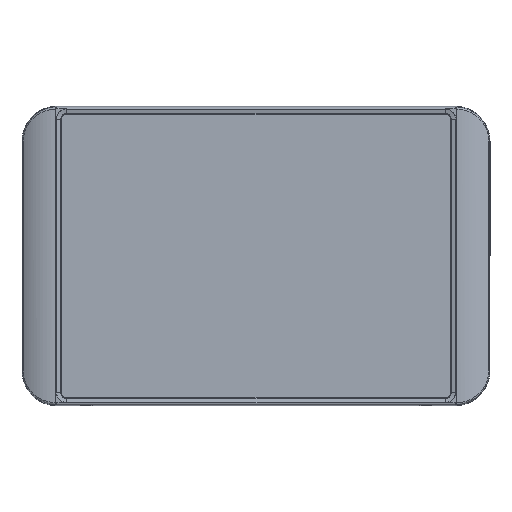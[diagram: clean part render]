
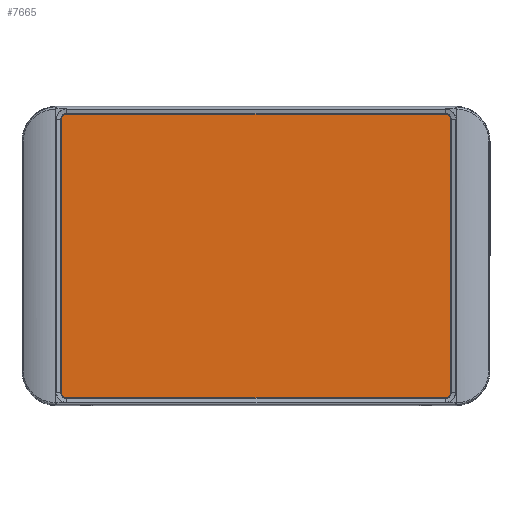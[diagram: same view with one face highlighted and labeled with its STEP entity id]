
A CAD part, top view. The second image highlights one B-rep face of the part: STEP entity #7665.
In plain terms, the highlighted planar face has unit normal (0, 0, 1).
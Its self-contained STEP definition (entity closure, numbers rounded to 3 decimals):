
#3389 = CARTESIAN_POINT ( 'NONE',  ( -66.95, 47., 6.7 ) ) ;
#5223 = VERTEX_POINT ( 'NONE', #70194 ) ;
#5329 = ORIENTED_EDGE ( 'NONE', *, *, #25039, .T. ) ;
#7665 = ADVANCED_FACE ( 'NONE', ( #53057 ), #104789, .T. ) ;
#9580 = CIRCLE ( 'NONE', #89267, 1.8 ) ;
#10596 = CARTESIAN_POINT ( 'NONE',  ( -65.15, 47., 6.7 ) ) ;
#10957 = VERTEX_POINT ( 'NONE', #63657 ) ;
#12002 = VERTEX_POINT ( 'NONE', #14768 ) ;
#14768 = CARTESIAN_POINT ( 'NONE',  ( -65.15, -48.8, 6.7 ) ) ;
#16597 = LINE ( 'NONE', #105528, #101833 ) ;
#18871 = DIRECTION ( 'NONE',  ( 1., 0., 0. ) ) ;
#19918 = LINE ( 'NONE', #62959, #39330 ) ;
#21638 = ORIENTED_EDGE ( 'NONE', *, *, #51643, .T. ) ;
#21799 = DIRECTION ( 'NONE',  ( 0., -1., 0. ) ) ;
#24155 = VERTEX_POINT ( 'NONE', #3389 ) ;
#25039 = EDGE_CURVE ( 'NONE', #12002, #32439, #84920, .T. ) ;
#26351 = AXIS2_PLACEMENT_3D ( 'NONE', #10596, #68329, #18871 ) ;
#32439 = VERTEX_POINT ( 'NONE', #101100 ) ;
#33220 = CARTESIAN_POINT ( 'NONE',  ( 65.15, 48.8, 6.7 ) ) ;
#35600 = LINE ( 'NONE', #105513, #76905 ) ;
#36259 = DIRECTION ( 'NONE',  ( 0., 0., 1. ) ) ;
#39125 = EDGE_CURVE ( 'NONE', #53460, #103181, #35600, .T. ) ;
#39330 = VECTOR ( 'NONE', #21799, 1000. ) ;
#40913 = DIRECTION ( 'NONE',  ( 0., 0., 1. ) ) ;
#43648 = VECTOR ( 'NONE', #101554, 1000. ) ;
#43688 = ORIENTED_EDGE ( 'NONE', *, *, #52134, .T. ) ;
#49326 = DIRECTION ( 'NONE',  ( 0., 0., 1. ) ) ;
#50165 = EDGE_CURVE ( 'NONE', #10957, #12002, #62906, .T. ) ;
#51643 = EDGE_CURVE ( 'NONE', #5223, #53460, #92336, .T. ) ;
#52019 = EDGE_CURVE ( 'NONE', #24155, #10957, #19918, .T. ) ;
#52134 = EDGE_CURVE ( 'NONE', #32439, #74831, #9580, .T. ) ;
#53057 = FACE_OUTER_BOUND ( 'NONE', #78203, .T. ) ;
#53460 = VERTEX_POINT ( 'NONE', #33220 ) ;
#55364 = DIRECTION ( 'NONE',  ( 1., 0., 0. ) ) ;
#61971 = EDGE_CURVE ( 'NONE', #103181, #24155, #76337, .T. ) ;
#62906 = CIRCLE ( 'NONE', #70475, 1.8 ) ;
#62959 = CARTESIAN_POINT ( 'NONE',  ( -66.95, 47., 6.7 ) ) ;
#63494 = CARTESIAN_POINT ( 'NONE',  ( 66.95, -47., 6.7 ) ) ;
#63657 = CARTESIAN_POINT ( 'NONE',  ( -66.95, -47., 6.7 ) ) ;
#64417 = DIRECTION ( 'NONE',  ( -1., 0., 0. ) ) ;
#64436 = DIRECTION ( 'NONE',  ( 0., 1., 0. ) ) ;
#68329 = DIRECTION ( 'NONE',  ( 0., 0., 1. ) ) ;
#69103 = CARTESIAN_POINT ( 'NONE',  ( 65.15, -48.8, 6.7 ) ) ;
#70194 = CARTESIAN_POINT ( 'NONE',  ( 66.95, 47., 6.7 ) ) ;
#70475 = AXIS2_PLACEMENT_3D ( 'NONE', #85660, #36259, #93983 ) ;
#74831 = VERTEX_POINT ( 'NONE', #63494 ) ;
#76337 = CIRCLE ( 'NONE', #26351, 1.8 ) ;
#76905 = VECTOR ( 'NONE', #64417, 1000. ) ;
#78203 = EDGE_LOOP ( 'NONE', ( #88767, #5329, #43688, #105873, #21638, #92277, #85516, #89864 ) ) ;
#79902 = DIRECTION ( 'NONE',  ( 0., 0., 1. ) ) ;
#81245 = AXIS2_PLACEMENT_3D ( 'NONE', #96521, #79902, #55364 ) ;
#84920 = LINE ( 'NONE', #69103, #43648 ) ;
#85516 = ORIENTED_EDGE ( 'NONE', *, *, #61971, .T. ) ;
#85660 = CARTESIAN_POINT ( 'NONE',  ( -65.15, -47., 6.7 ) ) ;
#88767 = ORIENTED_EDGE ( 'NONE', *, *, #50165, .T. ) ;
#89267 = AXIS2_PLACEMENT_3D ( 'NONE', #90332, #40913, #98618 ) ;
#89864 = ORIENTED_EDGE ( 'NONE', *, *, #52019, .T. ) ;
#90332 = CARTESIAN_POINT ( 'NONE',  ( 65.15, -47., 6.7 ) ) ;
#92277 = ORIENTED_EDGE ( 'NONE', *, *, #39125, .T. ) ;
#92336 = CIRCLE ( 'NONE', #104410, 1.8 ) ;
#93983 = DIRECTION ( 'NONE',  ( 1., 0., 0. ) ) ;
#96521 = CARTESIAN_POINT ( 'NONE',  ( 65.15, 47., 6.7 ) ) ;
#98618 = DIRECTION ( 'NONE',  ( 1., 0., 0. ) ) ;
#98743 = CARTESIAN_POINT ( 'NONE',  ( 65.15, 47., 6.7 ) ) ;
#99312 = EDGE_CURVE ( 'NONE', #74831, #5223, #16597, .T. ) ;
#99833 = CARTESIAN_POINT ( 'NONE',  ( -65.15, 48.8, 6.7 ) ) ;
#101100 = CARTESIAN_POINT ( 'NONE',  ( 65.15, -48.8, 6.7 ) ) ;
#101554 = DIRECTION ( 'NONE',  ( 1., 0., 0. ) ) ;
#101833 = VECTOR ( 'NONE', #64436, 1000. ) ;
#103181 = VERTEX_POINT ( 'NONE', #99833 ) ;
#104410 = AXIS2_PLACEMENT_3D ( 'NONE', #98743, #49326, #107012 ) ;
#104789 = PLANE ( 'NONE',  #81245 ) ;
#105513 = CARTESIAN_POINT ( 'NONE',  ( 65.15, 48.8, 6.7 ) ) ;
#105528 = CARTESIAN_POINT ( 'NONE',  ( 66.95, 47., 6.7 ) ) ;
#105873 = ORIENTED_EDGE ( 'NONE', *, *, #99312, .T. ) ;
#107012 = DIRECTION ( 'NONE',  ( 1., 0., 0. ) ) ;
